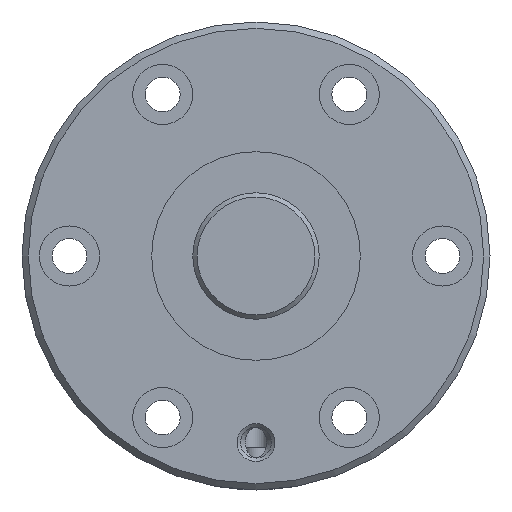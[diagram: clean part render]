
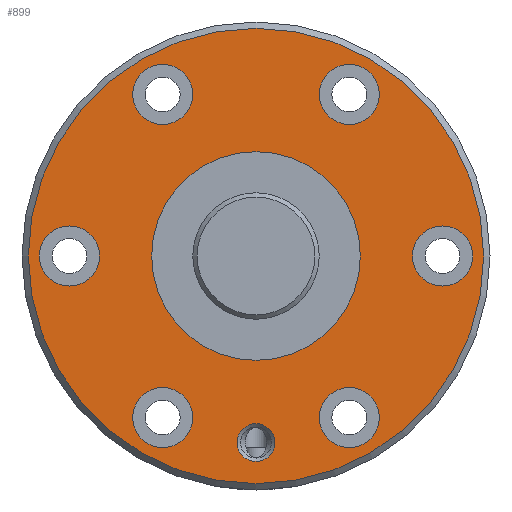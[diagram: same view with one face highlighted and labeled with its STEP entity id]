
A CAD part, left-side view. The second image highlights one B-rep face of the part: STEP entity #899.
In plain terms, the highlighted planar face has unit normal (-1, 0, 0).
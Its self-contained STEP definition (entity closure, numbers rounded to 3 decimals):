
#147=ORIENTED_EDGE('',*,*,#340,.T.);
#148=ORIENTED_EDGE('',*,*,#341,.T.);
#149=ORIENTED_EDGE('',*,*,#342,.T.);
#150=ORIENTED_EDGE('',*,*,#343,.T.);
#151=ORIENTED_EDGE('',*,*,#344,.T.);
#152=ORIENTED_EDGE('',*,*,#345,.T.);
#153=ORIENTED_EDGE('',*,*,#346,.T.);
#154=ORIENTED_EDGE('',*,*,#347,.T.);
#155=ORIENTED_EDGE('',*,*,#339,.F.);
#339=EDGE_CURVE('',#439,#439,#522,.T.);
#340=EDGE_CURVE('',#440,#440,#523,.T.);
#341=EDGE_CURVE('',#441,#441,#524,.F.);
#342=EDGE_CURVE('',#442,#442,#525,.T.);
#343=EDGE_CURVE('',#443,#443,#526,.T.);
#344=EDGE_CURVE('',#444,#444,#527,.T.);
#345=EDGE_CURVE('',#445,#445,#528,.T.);
#346=EDGE_CURVE('',#446,#446,#529,.T.);
#347=EDGE_CURVE('',#447,#447,#530,.T.);
#439=VERTEX_POINT('',#1510);
#440=VERTEX_POINT('',#1513);
#441=VERTEX_POINT('',#1515);
#442=VERTEX_POINT('',#1517);
#443=VERTEX_POINT('',#1519);
#444=VERTEX_POINT('',#1521);
#445=VERTEX_POINT('',#1523);
#446=VERTEX_POINT('',#1525);
#447=VERTEX_POINT('',#1527);
#522=CIRCLE('',#1005,36.);
#523=CIRCLE('',#1007,16.5);
#524=CIRCLE('',#1008,4.75);
#525=CIRCLE('',#1009,3.);
#526=CIRCLE('',#1010,4.75);
#527=CIRCLE('',#1011,4.75);
#528=CIRCLE('',#1012,4.75);
#529=CIRCLE('',#1013,4.75);
#530=CIRCLE('',#1014,4.75);
#602=EDGE_LOOP('',(#147));
#603=EDGE_LOOP('',(#148));
#604=EDGE_LOOP('',(#149));
#605=EDGE_LOOP('',(#150));
#606=EDGE_LOOP('',(#151));
#607=EDGE_LOOP('',(#152));
#608=EDGE_LOOP('',(#153));
#609=EDGE_LOOP('',(#154));
#610=EDGE_LOOP('',(#155));
#742=FACE_BOUND('',#602,.T.);
#743=FACE_BOUND('',#603,.T.);
#744=FACE_BOUND('',#604,.T.);
#745=FACE_BOUND('',#605,.T.);
#746=FACE_BOUND('',#606,.T.);
#747=FACE_BOUND('',#607,.T.);
#748=FACE_BOUND('',#608,.T.);
#749=FACE_BOUND('',#609,.T.);
#750=FACE_BOUND('',#610,.T.);
#864=PLANE('',#1006);
#899=ADVANCED_FACE('',(#742,#743,#744,#745,#746,#747,#748,#749,#750),#864,
 .T.);
#1005=AXIS2_PLACEMENT_3D('',#1509,#1171,#1172);
#1006=AXIS2_PLACEMENT_3D('',#1511,#1173,#1174);
#1007=AXIS2_PLACEMENT_3D('',#1512,#1175,#1176);
#1008=AXIS2_PLACEMENT_3D('',#1514,#1177,#1178);
#1009=AXIS2_PLACEMENT_3D('',#1516,#1179,#1180);
#1010=AXIS2_PLACEMENT_3D('',#1518,#1181,#1182);
#1011=AXIS2_PLACEMENT_3D('',#1520,#1183,#1184);
#1012=AXIS2_PLACEMENT_3D('',#1522,#1185,#1186);
#1013=AXIS2_PLACEMENT_3D('',#1524,#1187,#1188);
#1014=AXIS2_PLACEMENT_3D('',#1526,#1189,#1190);
#1171=DIRECTION('',(1.,0.,0.));
#1172=DIRECTION('',(0.,0.,-1.));
#1173=DIRECTION('',(-1.,0.,0.));
#1174=DIRECTION('',(0.,0.,1.));
#1175=DIRECTION('',(1.,0.,0.));
#1176=DIRECTION('',(0.,0.,-1.));
#1177=DIRECTION('',(-1.,0.,0.));
#1178=DIRECTION('',(0.,0.,1.));
#1179=DIRECTION('',(1.,0.,0.));
#1180=DIRECTION('',(0.,0.,-1.));
#1181=DIRECTION('',(1.,0.,0.));
#1182=DIRECTION('',(0.,0.,-1.));
#1183=DIRECTION('',(1.,0.,0.));
#1184=DIRECTION('',(0.,0.,-1.));
#1185=DIRECTION('',(1.,0.,0.));
#1186=DIRECTION('',(0.,0.,-1.));
#1187=DIRECTION('',(1.,0.,0.));
#1188=DIRECTION('',(0.,0.,-1.));
#1189=DIRECTION('',(1.,0.,0.));
#1190=DIRECTION('',(0.,0.,-1.));
#1509=CARTESIAN_POINT('',(0.,0.,0.));
#1510=CARTESIAN_POINT('',(0.,0.,-36.));
#1511=CARTESIAN_POINT('',(0.,36.,0.));
#1512=CARTESIAN_POINT('',(0.,0.,0.));
#1513=CARTESIAN_POINT('',(0.,0.,-16.5));
#1514=CARTESIAN_POINT('',(0.,29.5,0.));
#1515=CARTESIAN_POINT('',(0.,29.5,4.75));
#1516=CARTESIAN_POINT('',(0.,0.,-29.5));
#1517=CARTESIAN_POINT('',(0.,0.,-32.5));
#1518=CARTESIAN_POINT('',(0.,-29.5,0.));
#1519=CARTESIAN_POINT('',(0.,-29.5,-4.75));
#1520=CARTESIAN_POINT('',(0.,14.75,25.548));
#1521=CARTESIAN_POINT('',(0.,14.75,20.798));
#1522=CARTESIAN_POINT('',(0.,-14.75,-25.548));
#1523=CARTESIAN_POINT('',(0.,-14.75,-30.298));
#1524=CARTESIAN_POINT('',(0.,-14.75,25.548));
#1525=CARTESIAN_POINT('',(0.,-14.75,20.798));
#1526=CARTESIAN_POINT('',(0.,14.75,-25.548));
#1527=CARTESIAN_POINT('',(0.,14.75,-30.298));
